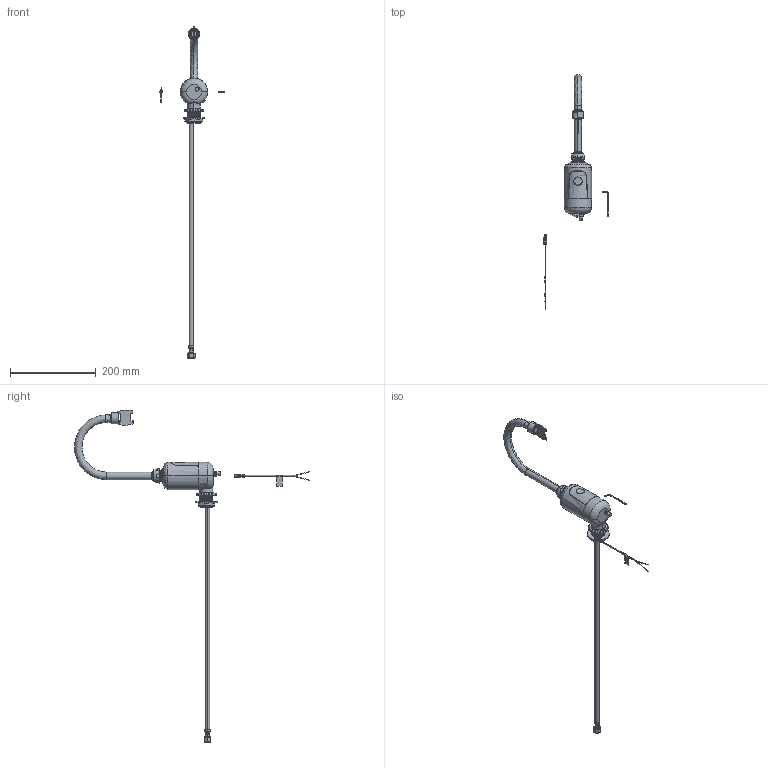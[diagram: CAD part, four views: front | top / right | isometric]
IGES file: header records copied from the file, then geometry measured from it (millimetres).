
Start section:  PTC IGES file: 116-104-AB-4T_REV062022.igs
Global section: file name: 116-104-AB-4T_REV062022.igs; native system: Creo Parametric by PTC Inc.; preprocessor: 2021184; author: rodjo; organization: Unknown; date: 20220620.155111; units: inch
Bounding box: 150.31 x 547.25 x 772.86 mm (x, y, z)
Surface area: 114441.2 mm2 (no closed solid volume)
Topology: 0 solids, 0 shells, 348 faces, 2638 edges, 3535 vertices
Faces by surface type: revolution 224, bspline 124
